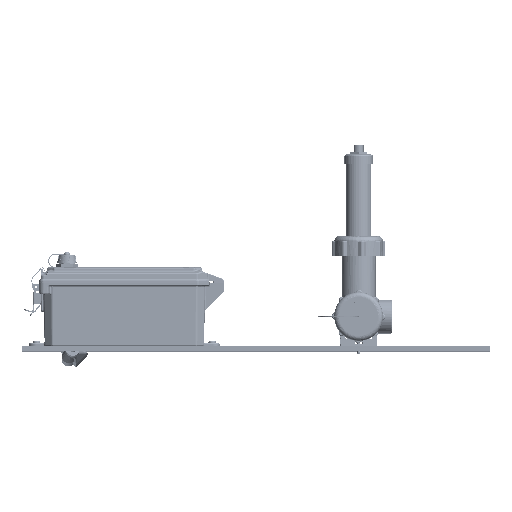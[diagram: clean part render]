
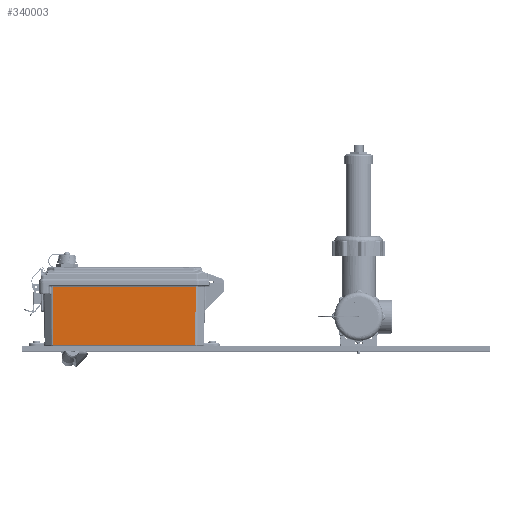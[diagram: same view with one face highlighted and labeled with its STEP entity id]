
A CAD part, top view. The second image highlights one B-rep face of the part: STEP entity #340003.
In plain terms, the highlighted planar face has unit normal (0, -0.018, 1) as drawn and (-0.017, 0, 1) by its records, which use the part's own axes.
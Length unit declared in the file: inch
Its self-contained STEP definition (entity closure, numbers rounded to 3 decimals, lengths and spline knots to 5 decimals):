
#49525 = CARTESIAN_POINT ( 'NONE',  ( 0., 4.85633, 3.145 ) ) ;
#65221 = ORIENTED_EDGE ( 'NONE', *, *, #346393, .F. ) ;
#71472 = EDGE_LOOP ( 'NONE', ( #415569, #515704, #576802, #65221 ) ) ;
#71757 = LINE ( 'NONE', #230681, #512900 ) ;
#83375 = VERTEX_POINT ( 'NONE', #151682 ) ;
#107839 = LINE ( 'NONE', #356825, #358698 ) ;
#113597 = AXIS2_PLACEMENT_3D ( 'NONE', #49525, #234605, #563195 ) ;
#151682 = CARTESIAN_POINT ( 'NONE',  ( -0.21878, -3.65683, 3.14118 ) ) ;
#167725 = DIRECTION ( 'NONE',  ( 0., 1., 0. ) ) ;
#170878 = DIRECTION ( 'NONE',  ( 0., 1., 0. ) ) ;
#203557 = FACE_OUTER_BOUND ( 'NONE', #71472, .T. ) ;
#206457 = CARTESIAN_POINT ( 'NONE',  ( -0.21878, 3.65683, 3.14118 ) ) ;
#226620 = DIRECTION ( 'NONE',  ( 1., 0.007, 0.017 ) ) ;
#230681 = CARTESIAN_POINT ( 'NONE',  ( 4.67159, 3.69219, 3.22654 ) ) ;
#232550 = DIRECTION ( 'NONE',  ( 1., -0.007, 0.017 ) ) ;
#234605 = DIRECTION ( 'NONE',  ( -0.017, 0., 1. ) ) ;
#267493 = CARTESIAN_POINT ( 'NONE',  ( -3.18613, 3.67756, 3.08939 ) ) ;
#270002 = VERTEX_POINT ( 'NONE', #206457 ) ;
#340003 = ADVANCED_FACE ( 'NONE', ( #203557 ), #516052, .T. ) ;
#346393 = EDGE_CURVE ( 'NONE', #348323, #484455, #354915, .T. ) ;
#348323 = VERTEX_POINT ( 'NONE', #348344 ) ;
#348344 = CARTESIAN_POINT ( 'NONE',  ( -3.18613, -3.63538, 3.08939 ) ) ;
#354915 = LINE ( 'NONE', #267493, #552849 ) ;
#356825 = CARTESIAN_POINT ( 'NONE',  ( -0.21878, 4.85633, 3.14118 ) ) ;
#358698 = VECTOR ( 'NONE', #167725, 39.37008 ) ;
#379485 = CARTESIAN_POINT ( 'NONE',  ( -3.18613, 3.63538, 3.08939 ) ) ;
#415433 = CARTESIAN_POINT ( 'NONE',  ( -3.18613, -3.63538, 3.08939 ) ) ;
#415569 = ORIENTED_EDGE ( 'NONE', *, *, #575467, .T. ) ;
#417200 = EDGE_CURVE ( 'NONE', #484455, #270002, #71757, .T. ) ;
#454132 = VECTOR ( 'NONE', #232550, 39.37008 ) ;
#484455 = VERTEX_POINT ( 'NONE', #379485 ) ;
#508168 = EDGE_CURVE ( 'NONE', #83375, #270002, #107839, .T. ) ;
#512900 = VECTOR ( 'NONE', #226620, 39.37008 ) ;
#513047 = LINE ( 'NONE', #415433, #454132 ) ;
#515704 = ORIENTED_EDGE ( 'NONE', *, *, #508168, .T. ) ;
#516052 = PLANE ( 'NONE',  #113597 ) ;
#552849 = VECTOR ( 'NONE', #170878, 39.37008 ) ;
#563195 = DIRECTION ( 'NONE',  ( 1., 0., 0.017 ) ) ;
#575467 = EDGE_CURVE ( 'NONE', #348323, #83375, #513047, .T. ) ;
#576802 = ORIENTED_EDGE ( 'NONE', *, *, #417200, .F. ) ;
